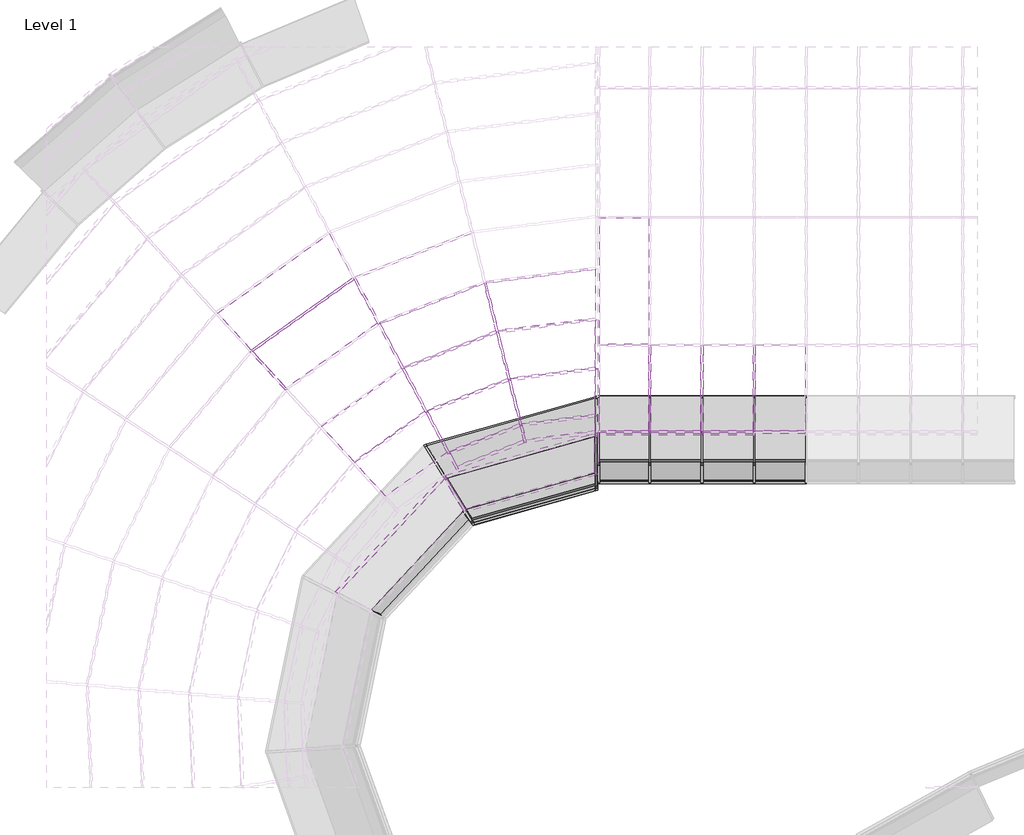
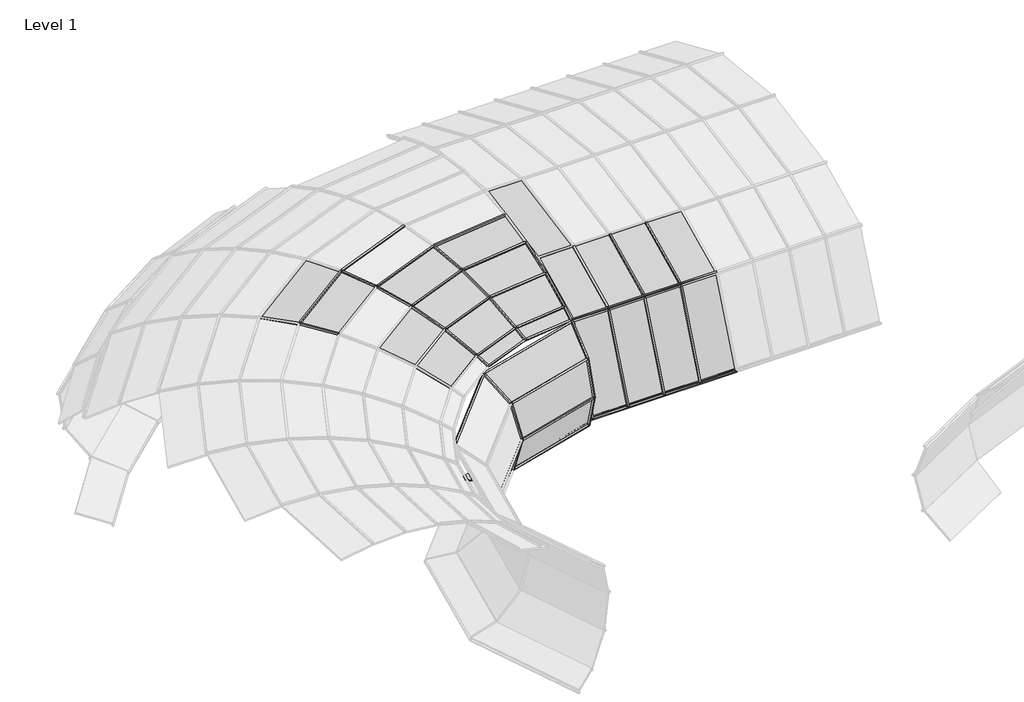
# One storey, part 15 of 23: 68 members, 31 plates.
"""IFC4 building model written with IfcOpenShell, lengths in millimetres."""

from ifc_helpers import new_model, si_unit, origin, place, context, project, spatial, transform, mapped, element, save
from components import member_c876edb5, member_40c6cd9d, member_782630c7, member_c2ddcf79, member_398e5ff5, member_398607d0, member_5099ef51, member_5ccaa950, member_a32a9cac, member_ff149431, member_8174f0e4, member_f9960f3d, member_231912ba, member_602ccce8, member_4609ab2d, member_513a4f72, member_c8b9029b, member_4f4d7b95, member_68981e21, member_3e1f1dd8, member_0cd36c09, member_d0a40a1c, member_ff9adfd2, member_8c9da58c, member_391bee44, member_01ebdf2a, member_d6b8231b, member_0f8f75f6, member_42213d33, member_14e241b9, member_5f010dbd, member_0934fb4d, member_48ec9f95, member_a14fa40f, member_7b8779ad, member_ae0b3619, member_4a9ed0f7, member_e2c9c6a0, member_25f397f4, member_9fdc8c74, system_panel_glazed_4989902e, system_panel_glazed_6854fac0, system_panel_glazed_c0d17033, system_panel_glazed_fa19e975, system_panel_glazed_51f493bd, system_panel_glazed_a1f64e1d, system_panel_glazed_6ab21abb, system_panel_glazed_3957fabc, system_panel_glazed_7bf4cd1b, system_panel_glazed_9f229a92, system_panel_glazed_17b64d9f, system_panel_glazed_a07c5774, system_panel_glazed_af8a38da, system_panel_glazed_4fd85c75, system_panel_glazed_840234e5, system_panel_glazed_1256fb3b, system_panel_glazed_5d54433e, system_panel_glazed_de823024, system_panel_glazed_a11d2942, system_panel_glazed_66eabb40, system_panel_glazed_688557e5, system_panel_glazed_15cacd98, system_panel_glazed_2b717ddf

model = new_model("IFC4")

# Units and contexts
model_context = context("Model", 3, world=origin())
ifc_project = project(units=[si_unit("LENGTHUNIT", "METRE", prefix="MILLI")], contexts=[model_context])

# Site, building, storey
site = spatial("IfcSite", under=ifc_project)
building = spatial("IfcBuilding", under=site)
storey = spatial("IfcBuildingStorey", under=building, Name="Level 1", Elevation=0.0)

# Members
placement = place(None, origin())
member_shape = member_c876edb5(model_context)
element("IfcMember", 1, ObjectType="Rectangular Mullion : 1\" Square", at=placement, inside=storey, context=model_context, shape_type="MappedRepresentation", body=[
    mapped(member_shape, transform((-12174.6051838, 2868.8876904, 2676.0506073), x_axis=(0.34938601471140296, -0.8972882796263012, -0.26982059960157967), y_axis=(0.09790269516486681, -0.2514323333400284, 0.962910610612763), z_axis=(-0.9318500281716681, -0.3628436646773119, 0.0))),
])
member_2_shape = member_40c6cd9d(model_context)
element("IfcMember", 2, ObjectType="Rectangular Mullion : 1\" Square", at=placement, inside=storey, context=model_context, shape_type="MappedRepresentation", body=[
    mapped(member_2_shape, transform((-10931.7449467, 2736.2969259, 2475.91846), x_axis=(0.11409837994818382, -0.9171267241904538, -0.3819163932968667), y_axis=(0.04715017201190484, -0.3789947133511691, 0.9241968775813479), z_axis=(-0.9923499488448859, -0.12345679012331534, 0.0))),
])
member_3_shape = member_782630c7(model_context)
element("IfcMember", 3, ObjectType="Rectangular Mullion : 1\" Square", at=placement, inside=storey, context=model_context, shape_type="MappedRepresentation", body=[
    mapped(member_3_shape, transform((-11901.0305804, 2362.2159821, 2475.91846), x_axis=(0.33533898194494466, -0.8612128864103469, -0.3819163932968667), y_axis=(0.13857594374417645, -0.3558888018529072, 0.9241968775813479), z_axis=(-0.9318500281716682, -0.3628436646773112, 0.0))),
])
member_4_shape = member_c2ddcf79(model_context)
element("IfcMember", 4, ObjectType="Rectangular Mullion : 1\" Square", at=placement, inside=storey, context=model_context, shape_type="MappedRepresentation", body=[
    mapped(member_4_shape, transform((-10797.4988883, 2205.1103725, 2208.6526723), x_axis=(0.10770495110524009, -0.8657361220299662, -0.4887746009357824), y_axis=(0.060342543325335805, -0.48503545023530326, 0.8724101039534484), z_axis=(-0.992349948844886, -0.12345679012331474, 0.0))),
])
member_5_shape = member_398e5ff5(model_context)
element("IfcMember", 5, ObjectType="Rectangular Mullion : 1\" Square", at=placement, inside=storey, context=model_context, shape_type="MappedRepresentation", body=[
    mapped(member_5_shape, transform((-11640.7229512, 1880.1152697, 2208.6526723), x_axis=(0.3165484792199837, -0.8129553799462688, -0.48877460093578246), y_axis=(0.17734876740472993, -0.4554646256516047, 0.8724101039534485), z_axis=(-0.9318500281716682, -0.3628436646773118, 0.0))),
])
member_6_shape = member_398607d0(model_context)
element("IfcMember", 6, ObjectType="Rectangular Mullion : 1\" Square", at=placement, inside=storey, context=model_context, shape_type="MappedRepresentation", body=[
    mapped(member_6_shape, transform((-12745.8541056, 3926.8647965, 2864.5209769), x_axis=(0.3626062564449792, -0.9312403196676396, -0.03616863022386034), y_axis=(0.013123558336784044, -0.033703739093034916, 0.9993457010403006), z_axis=(-0.9318500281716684, -0.36284366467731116, 0.0))),
])
element("IfcMember", 7, ObjectType="Rectangular Mullion : 1\" Square", at=placement, inside=storey, context=model_context, shape_type="MappedRepresentation", body=[
    mapped(member_6_shape, transform((-13951.5584731, 3071.9900702, 2864.5209769), x_axis=(0.5797297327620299, -0.8140056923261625, -0.03616863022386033), y_axis=(0.020981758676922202, -0.029460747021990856, 0.9993457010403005), z_axis=(-0.8145386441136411, -0.5801092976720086, 0.0))),
])
member_7_shape = member_5099ef51(model_context)
element("IfcMember", 8, ObjectType="Rectangular Mullion : 1\" Square", at=placement, inside=storey, context=model_context, shape_type="MappedRepresentation", body=[
    mapped(member_7_shape, transform((-11218.7560629, 3871.9462509, 2806.2019711), x_axis=(0.1219832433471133, -0.9805055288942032, -0.15404218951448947), y_axis=(0.019017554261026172, -0.15286375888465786, 0.9880642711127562), z_axis=(-0.9923499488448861, -0.12345679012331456, 0.0))),
])
member_8_shape = member_5ccaa950(model_context)
element("IfcMember", 9, ObjectType="Rectangular Mullion : 1\" Square", at=placement, inside=storey, context=model_context, shape_type="MappedRepresentation", body=[
    mapped(member_8_shape, transform((-12457.5548024, 3392.9223227, 2806.2019711), x_axis=(0.35851286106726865, -0.9207277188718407, -0.15404218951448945), y_axis=(0.055893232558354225, -0.14354421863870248, 0.9880642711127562), z_axis=(-0.9318500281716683, -0.36284366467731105, 0.0))),
])
member_9_shape = member_a32a9cac(model_context)
element("IfcMember", 10, ObjectType="Rectangular Mullion : 1\" Square", at=placement, inside=storey, context=model_context, shape_type="MappedRepresentation", body=[
    mapped(member_9_shape, transform((-11072.8330596, 3294.5562098, 2676.0506073), x_axis=(0.1188778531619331, -0.9555442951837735, -0.2698205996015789), y_axis=(0.03331118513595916, -0.2677564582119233, 0.9629106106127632), z_axis=(-0.9923499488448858, -0.12345679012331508, 0.0))),
])
member_10_shape = member_ff149431(model_context)
element("IfcMember", 11, ObjectType="Rectangular Mullion : 1\" Square", at=placement, inside=storey, context=model_context, shape_type="MappedRepresentation", body=[
    mapped(member_10_shape, transform((-10746.8652958, 2004.7627139, 2085.6089632), x_axis=(0.10586239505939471, -0.850925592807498, -0.514508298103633), y_axis=(0.06351954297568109, -0.51057228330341, 0.857485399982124), z_axis=(-0.9923499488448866, -0.12345679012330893, 0.0))),
])
member_11_shape = member_8174f0e4(model_context)
element("IfcMember", 12, ObjectType="Rectangular Mullion : 1\" Square", at=placement, inside=storey, context=model_context, shape_type="MappedRepresentation", body=[
    mapped(member_11_shape, transform((-11542.5427099, 1698.2813201, 2085.6089632), x_axis=(0.3111331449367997, -0.7990477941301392, -0.5145082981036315), y_axis=(0.18668607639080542, -0.47944457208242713, 0.8574853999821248), z_axis=(-0.9318500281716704, -0.36284366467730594, 0.0))),
])
member_12_shape = member_f9960f3d(model_context)
element("IfcMember", 13, ObjectType="Rectangular Mullion : 1\" Square", at=placement, inside=storey, context=model_context, shape_type="MappedRepresentation", body=[
    mapped(member_12_shape, transform((-11356.5599234, 1047.8979662, 1116.1918244), x_axis=(0.007390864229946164, -0.026347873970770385, -0.9996255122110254), y_axis=(0.26998484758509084, -0.962475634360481, 0.02736485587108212), z_axis=(-0.962836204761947, -0.2700859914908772, 0.0))),
])
member_13_shape = member_231912ba(model_context)
element("IfcMember", 14, ObjectType="Rectangular Mullion : 1\" Square", at=placement, inside=storey, context=model_context, shape_type="MappedRepresentation", body=[
    mapped(member_13_shape, transform((-11921.9234749, 1976.3418904, 0.0), x_axis=(-0.2624096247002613, 0.9354705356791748, -0.23671938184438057), y_axis=(0.06393458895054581, -0.2279219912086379, -0.9715780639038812), z_axis=(-0.9628362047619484, -0.27008599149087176, 0.0))),
])
member_14_shape = member_602ccce8(model_context)
element("IfcMember", 15, ObjectType="Rectangular Mullion : 1\" Square", at=placement, inside=storey, context=model_context, shape_type="MappedRepresentation", body=[
    mapped(member_14_shape, transform((-11437.3436732, 1180.5615973, 526.7119632), x_axis=(-0.1426560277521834, 0.5085579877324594, -0.8491278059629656), y_axis=(0.22933752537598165, -0.8175709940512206, -0.5281874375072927), z_axis=(-0.9628362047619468, -0.27008599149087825, 0.0))),
])
member_15_shape = member_4609ab2d(model_context)
element("IfcMember", 16, ObjectType="Rectangular Mullion : 1\" Square", at=placement, inside=storey, context=model_context, shape_type="MappedRepresentation", body=[
    mapped(member_15_shape, transform((-11670.4149391, 1563.312838, 113.4427618), x_axis=(-0.24330787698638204, 0.8673742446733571, -0.4341234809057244), y_axis=(0.11725067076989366, -0.4179898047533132, -0.900853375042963), z_axis=(-0.962836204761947, -0.27008599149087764, 0.0))),
])
member_16_shape = member_513a4f72(model_context)
element("IfcMember", 17, ObjectType="Rectangular Mullion : 1\" Square", at=placement, inside=storey, context=model_context, shape_type="MappedRepresentation", body=[
    mapped(member_16_shape, transform((-11453.4513691, 1207.0137667, 1696.6281859), x_axis=(0.1547369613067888, -0.551625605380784, -0.8196131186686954), y_axis=(0.22136602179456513, -0.7891531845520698, 0.5729173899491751), z_axis=(-0.9628362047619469, -0.27008599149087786, 0.0))),
])
member_17_shape = member_c8b9029b(model_context)
element("IfcMember", 18, ObjectType="Rectangular Mullion : 1\" Square", at=placement, inside=storey, context=model_context, shape_type="MappedRepresentation", body=[
    mapped(member_17_shape, transform((-11718.4562886, 1595.1846124, 2085.6089632), x_axis=(-0.5543774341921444, 0.5168178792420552, 0.6523533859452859), y_axis=(0.47716435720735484, -0.444836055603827, 0.757914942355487), z_axis=(0.6818943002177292, 0.7314507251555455, 0.0))),
])
member_18_shape = member_4f4d7b95(model_context)
element("IfcMember", 19, ObjectType="Rectangular Mullion : 1\" Square", at=placement, inside=storey, context=model_context, shape_type="MappedRepresentation", body=[
    mapped(member_18_shape, transform((-9937.406021, 2101.6487012, 2085.6089632), x_axis=(-0.20470220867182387, 0.7297479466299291, 0.6523533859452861), y_axis=(0.17619151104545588, -0.628109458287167, 0.7579149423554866), z_axis=(0.9628362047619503, 0.2700859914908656, 0.0))),
])
member_19_shape = member_68981e21(model_context)
element("IfcMember", 20, ObjectType="Rectangular Mullion : 1\" Square", at=placement, inside=storey, context=model_context, shape_type="MappedRepresentation", body=[
    mapped(member_19_shape, transform((-9303.3499814, 2539.8807303, 0.0), x_axis=(0.0, 0.8307182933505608, -0.5566930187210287), y_axis=(0.0, -0.5566930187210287, -0.8307182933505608), z_axis=(-1.0, 0.0, 0.0))),
])
element("IfcMember", 21, ObjectType="Rectangular Mullion : 1\" Square", at=placement, inside=storey, context=model_context, shape_type="MappedRepresentation", body=[
    mapped(member_19_shape, transform((-8693.7499814, 2539.8807303, 0.0), x_axis=(0.0, 0.8307182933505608, -0.5566930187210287), y_axis=(0.0, -0.5566930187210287, -0.8307182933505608), z_axis=(-1.0, 0.0, 0.0))),
])
element("IfcMember", 22, ObjectType="Rectangular Mullion : 1\" Square", at=placement, inside=storey, context=model_context, shape_type="MappedRepresentation", body=[
    mapped(member_19_shape, transform((-8084.1499814, 2539.8807303, 0.0), x_axis=(0.0, 0.8307182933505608, -0.5566930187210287), y_axis=(0.0, -0.5566930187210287, -0.8307182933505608), z_axis=(-1.0, 0.0, 0.0))),
])
element("IfcMember", 23, ObjectType="Rectangular Mullion : 1\" Square", at=placement, inside=storey, context=model_context, shape_type="MappedRepresentation", body=[
    mapped(member_19_shape, transform((-9303.3499814, 2108.5088854, 2085.6089632), x_axis=(0.0, -0.9009025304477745, -0.43402146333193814), y_axis=(0.0, -0.43402146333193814, 0.9009025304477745), z_axis=(-1.0, 0.0, 0.0))),
])
element("IfcMember", 24, ObjectType="Rectangular Mullion : 1\" Square", at=placement, inside=storey, context=model_context, shape_type="MappedRepresentation", body=[
    mapped(member_19_shape, transform((-8693.7499814, 2108.5088854, 2085.6089632), x_axis=(0.0, -0.9009025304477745, -0.43402146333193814), y_axis=(0.0, -0.43402146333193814, 0.9009025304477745), z_axis=(-1.0, 0.0, 0.0))),
])
element("IfcMember", 25, ObjectType="Rectangular Mullion : 1\" Square", at=placement, inside=storey, context=model_context, shape_type="MappedRepresentation", body=[
    mapped(member_19_shape, transform((-8084.1499814, 2108.5088854, 2085.6089632), x_axis=(0.0, -0.9009025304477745, -0.43402146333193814), y_axis=(0.0, -0.43402146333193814, 0.9009025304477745), z_axis=(-1.0, 0.0, 0.0))),
])
member_20_shape = member_3e1f1dd8(model_context)
element("IfcMember", 26, ObjectType="Rectangular Mullion : 1\" Square", at=placement, inside=storey, context=model_context, shape_type="MappedRepresentation", body=[
    mapped(member_20_shape, transform((-9303.3499814, 1534.1192339, 673.9955146), x_axis=(0.0, 0.38018576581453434, -0.9249101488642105), y_axis=(0.0, -0.9249101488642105, -0.38018576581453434), z_axis=(-1.0, 0.0, 0.0))),
])
element("IfcMember", 27, ObjectType="Rectangular Mullion : 1\" Square", at=placement, inside=storey, context=model_context, shape_type="MappedRepresentation", body=[
    mapped(member_20_shape, transform((-8693.7499814, 1534.1192339, 673.9955146), x_axis=(0.0, 0.38018576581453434, -0.9249101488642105), y_axis=(0.0, -0.9249101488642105, -0.38018576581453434), z_axis=(-1.0, 0.0, 0.0))),
])
element("IfcMember", 28, ObjectType="Rectangular Mullion : 1\" Square", at=placement, inside=storey, context=model_context, shape_type="MappedRepresentation", body=[
    mapped(member_20_shape, transform((-8084.1499814, 1534.1192339, 673.9955146), x_axis=(0.0, 0.38018576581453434, -0.9249101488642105), y_axis=(0.0, -0.9249101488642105, -0.38018576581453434), z_axis=(-1.0, 0.0, 0.0))),
])
element("IfcMember", 29, ObjectType="Rectangular Mullion : 1\" Square", at=placement, inside=storey, context=model_context, shape_type="MappedRepresentation", body=[
    mapped(member_20_shape, transform((-9912.9499814, 1534.1192339, 673.9955146), x_axis=(0.0, 0.38018576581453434, -0.9249101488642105), y_axis=(0.0, -0.9249101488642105, -0.38018576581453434), z_axis=(-1.0, 0.0, 0.0))),
])
element("IfcMember", 30, ObjectType="Rectangular Mullion : 1\" Square", at=placement, inside=storey, context=model_context, shape_type="MappedRepresentation", body=[
    mapped(member_19_shape, transform((-9912.9499814, 2539.8807303, 0.0), x_axis=(0.0, 0.8307182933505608, -0.5566930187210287), y_axis=(0.0, -0.5566930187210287, -0.8307182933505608), z_axis=(-1.0, 0.0, 0.0))),
])
element("IfcMember", 31, ObjectType="Rectangular Mullion : 1\" Square", at=placement, inside=storey, context=model_context, shape_type="MappedRepresentation", body=[
    mapped(member_19_shape, transform((-9912.9499814, 2108.5088854, 2085.6089632), x_axis=(0.0, -0.9009025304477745, -0.4340214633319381), y_axis=(0.0, -0.4340214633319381, 0.9009025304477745), z_axis=(-1.0, 0.0, 0.0))),
])
element("IfcMember", 32, ObjectType="Rectangular Mullion : 1\" Square", at=placement, inside=storey, context=model_context, shape_type="MappedRepresentation", body=[
    mapped(member_19_shape, transform((-8693.7499814, 2108.5088854, 2085.6089632), x_axis=(0.0, 0.3768960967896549, 0.9262555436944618), y_axis=(0.0, -0.9262555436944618, 0.3768960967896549), z_axis=(1.0, 0.0, 0.0))),
])
element("IfcMember", 33, ObjectType="Rectangular Mullion : 1\" Square", at=placement, inside=storey, context=model_context, shape_type="MappedRepresentation", body=[
    mapped(member_19_shape, transform((-8084.1499814, 2108.5088854, 2085.6089632), x_axis=(0.0, 0.3768960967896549, 0.9262555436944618), y_axis=(0.0, -0.9262555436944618, 0.3768960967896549), z_axis=(1.0, 0.0, 0.0))),
])
element("IfcMember", 34, ObjectType="Rectangular Mullion : 1\" Square", at=placement, inside=storey, context=model_context, shape_type="MappedRepresentation", body=[
    mapped(member_19_shape, transform((-9303.3499814, 2108.5088854, 2085.6089632), x_axis=(0.0, 0.3768960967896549, 0.9262555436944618), y_axis=(0.0, -0.9262555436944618, 0.3768960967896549), z_axis=(1.0, 0.0, 0.0))),
])
member_21_shape = member_0cd36c09(model_context)
element("IfcMember", 35, ObjectType="Rectangular Mullion : 1\" Square", at=placement, inside=storey, context=model_context, shape_type="MappedRepresentation", body=[
    mapped(member_21_shape, transform((-11231.3589072, 3870.3783497, 2806.2019711), x_axis=(-0.9695168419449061, -0.2450246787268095, 0.0), y_axis=(0.05231347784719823, -0.20699465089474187, 0.9769424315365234), z_axis=(-0.23937500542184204, 0.9471621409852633, 0.21350289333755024))),
])
element("IfcMember", 36, ObjectType="Rectangular Mullion : 1\" Square", at=placement, inside=storey, context=model_context, shape_type="MappedRepresentation", body=[
    mapped(member_21_shape, transform((-11085.4359039, 3292.9883085, 2676.0506073), x_axis=(-0.9695168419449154, -0.24502467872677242, 0.0), y_axis=(0.08044178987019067, -0.31829312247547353, 0.9445732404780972), z_axis=(-0.23144375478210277, 0.9157796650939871, 0.32830076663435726))),
])
element("IfcMember", 37, ObjectType="Rectangular Mullion : 1\" Square", at=placement, inside=storey, context=model_context, shape_type="MappedRepresentation", body=[
    mapped(member_21_shape, transform((-12757.688601, 3922.2566819, 2864.5209769), x_axis=(-0.8799258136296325, -0.475111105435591, 0.0), y_axis=(0.04545276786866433, -0.08418044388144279, 0.9954133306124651), z_axis=(-0.4729319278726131, 0.8758898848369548, 0.09566766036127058))),
])
element("IfcMember", 38, ObjectType="Rectangular Mullion : 1\" Square", at=placement, inside=storey, context=model_context, shape_type="MappedRepresentation", body=[
    mapped(member_21_shape, transform((-12469.3892978, 3388.3142081, 2806.2019711), x_axis=(-0.87992581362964, -0.4751111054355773, 0.0), y_axis=(0.10143759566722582, -0.1878667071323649, 0.9769424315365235), z_axis=(-0.46415619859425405, 0.8596368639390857, 0.21350289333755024))),
])
element("IfcMember", 39, ObjectType="Rectangular Mullion : 1\" Square", at=placement, inside=storey, context=model_context, shape_type="MappedRepresentation", body=[
    mapped(member_21_shape, transform((-12186.4396791, 2864.2795759, 2676.0506073), x_axis=(-0.8799258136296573, -0.4751111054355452, 0.0), y_axis=(0.15597934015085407, -0.2888803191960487, 0.9445732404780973), z_axis=(-0.4487772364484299, 0.8311543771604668, 0.3283007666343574))),
])
element("IfcMember", 40, ObjectType="Rectangular Mullion : 1\" Square", at=placement, inside=storey, context=model_context, shape_type="MappedRepresentation", body=[
    mapped(member_21_shape, transform((-13961.9031139, 3064.6226821, 2864.5209769), x_axis=(-0.736688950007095, -0.6762317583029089, 0.0), y_axis=(0.06469351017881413, -0.07047730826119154, 0.9954133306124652), z_axis=(-0.6731301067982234, 0.7333100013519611, 0.09566766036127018))),
])
member_22_shape = member_d0a40a1c(model_context)
element("IfcMember", 41, ObjectType="Rectangular Mullion : 1\" Square", at=placement, inside=storey, context=model_context, shape_type="MappedRepresentation", body=[
    mapped(member_22_shape, transform((-10944.347791, 2734.7290247, 2475.91846), x_axis=(-0.9695168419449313, -0.2450246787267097, 0.0), y_axis=(0.10742571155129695, -0.4250634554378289, 0.8987662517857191), z_axis=(-0.22021991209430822, 0.8713690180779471, 0.43842812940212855))),
])
element("IfcMember", 42, ObjectType="Rectangular Mullion : 1\" Square", at=placement, inside=storey, context=model_context, shape_type="MappedRepresentation", body=[
    mapped(member_22_shape, transform((-11912.8650758, 2357.6078676, 2475.91846), x_axis=(-0.8799258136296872, -0.4751111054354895, 0.0), y_axis=(0.20830207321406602, -0.3857842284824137, 0.8987662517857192), z_axis=(-0.4270138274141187, 0.7908476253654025, 0.4384281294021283))),
])
member_23_shape = member_ff9adfd2(model_context)
element("IfcMember", 43, ObjectType="Rectangular Mullion : 1\" Square", at=placement, inside=storey, context=model_context, shape_type="MappedRepresentation", body=[
    mapped(member_23_shape, transform((-10810.1017326, 2203.5424713, 2208.6526723), x_axis=(-0.9695168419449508, -0.24502467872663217, 0.0), y_axis=(0.12535595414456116, -0.4960100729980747, 0.8592205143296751), z_axis=(-0.21053023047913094, 0.8330287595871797, 0.5116054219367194))),
])
element("IfcMember", 44, ObjectType="Rectangular Mullion : 1\" Square", at=placement, inside=storey, context=model_context, shape_type="MappedRepresentation", body=[
    mapped(member_23_shape, transform((-11652.5574466, 1875.5071551, 2208.6526723), x_axis=(-0.8799258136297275, -0.47511110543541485, 0.0), y_axis=(0.24306941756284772, -0.450174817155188, 0.8592205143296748), z_axis=(-0.40822520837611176, 0.7560503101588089, 0.5116054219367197))),
])
member_24_shape = member_8c9da58c(model_context)
element("IfcMember", 45, ObjectType="Rectangular Mullion : 1\" Square", at=placement, inside=storey, context=model_context, shape_type="MappedRepresentation", body=[
    mapped(member_24_shape, transform((-11465.6793889, 1203.5836746, 1696.6281859), x_axis=(-0.8541071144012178, -0.520097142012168, 0.0), y_axis=(0.49521537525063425, -0.8132461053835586, 0.3056018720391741), z_axis=(-0.15894266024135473, 0.26101673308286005, 0.952159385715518))),
])
element("IfcMember", 46, ObjectType="Rectangular Mullion : 1\" Square", at=placement, inside=storey, context=model_context, shape_type="MappedRepresentation", body=[
    mapped(member_24_shape, transform((-11368.7879432, 1044.4678741, 1116.1918244), x_axis=(-0.8541071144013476, -0.5200971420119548, 0.0), y_axis=(0.5029310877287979, -0.8259169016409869, -0.25479715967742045), z_axis=(0.13251927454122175, -0.2176240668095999, 0.9669945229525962))),
])
member_25_shape = member_391bee44(model_context)
element("IfcMember", 47, ObjectType="Rectangular Mullion : 1\" Square", at=placement, inside=storey, context=model_context, shape_type="MappedRepresentation", body=[
    mapped(member_25_shape, transform((-11449.571693, 1177.1315052, 526.7119632), x_axis=(-0.8541071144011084, -0.5200971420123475, 0.0), y_axis=(0.3525920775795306, -0.5790291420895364, -0.735121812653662), z_axis=(0.3823347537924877, -0.627872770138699, 0.677935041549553))),
])
member_26_shape = member_01ebdf2a(model_context)
element("IfcMember", 48, ObjectType="Rectangular Mullion : 1\" Square", at=placement, inside=storey, context=model_context, shape_type="MappedRepresentation", body=[
    mapped(member_26_shape, transform((-11682.6429589, 1559.8827459, 113.4427618), x_axis=(-0.8541071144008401, -0.520097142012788, 0.0), y_axis=(0.11878459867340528, -0.19506888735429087, -0.9735698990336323), z_axis=(0.5063509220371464, -0.831532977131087, 0.22838925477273))),
])
member_27_shape = member_d6b8231b(model_context)
element("IfcMember", 49, ObjectType="Rectangular Mullion : 1\" Square", at=placement, inside=storey, context=model_context, shape_type="MappedRepresentation", body=[
    mapped(member_27_shape, transform((-11709.796231, 1604.4740366, 2085.6089632), x_axis=(-0.8541071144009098, -0.5200971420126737, 0.0), y_axis=(0.331869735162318, -0.5449987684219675, 0.769960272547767), z_axis=(-0.400454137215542, 0.6576285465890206, 0.6380918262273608))),
])
member_28_shape = member_0f8f75f6(model_context)
element("IfcMember", 50, ObjectType="Rectangular Mullion : 1\" Square", at=placement, inside=storey, context=model_context, shape_type="MappedRepresentation", body=[
    mapped(member_28_shape, transform((-8693.7499814, 2518.7804857, 14.1400027), x_axis=(1.0, 0.0, 0.0), y_axis=(0.0, -0.5566930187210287, -0.8307182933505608), z_axis=(0.0, 0.8307182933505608, -0.5566930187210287))),
])
element("IfcMember", 51, ObjectType="Rectangular Mullion : 1\" Square", at=placement, inside=storey, context=model_context, shape_type="MappedRepresentation", body=[
    mapped(member_28_shape, transform((-9303.3499814, 2518.7804857, 14.1400027), x_axis=(1.0, 0.0, 0.0), y_axis=(0.0, -0.5566930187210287, -0.8307182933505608), z_axis=(0.0, 0.8307182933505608, -0.5566930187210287))),
])
element("IfcMember", 52, ObjectType="Rectangular Mullion : 1\" Square", at=placement, inside=storey, context=model_context, shape_type="MappedRepresentation", body=[
    mapped(member_28_shape, transform((-8084.1499814, 2518.7804857, 14.1400027), x_axis=(1.0, 0.0, 0.0), y_axis=(0.0, -0.5566930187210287, -0.8307182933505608), z_axis=(0.0, 0.8307182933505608, -0.5566930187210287))),
])
member_29_shape = member_42213d33(model_context)
element("IfcMember", 53, ObjectType="Rectangular Mullion : 1\" Square", at=placement, inside=storey, context=model_context, shape_type="MappedRepresentation", body=[
    mapped(member_29_shape, transform((-9303.3499814, 1538.9058143, 685.75896), x_axis=(1.0, 0.0, 0.0), y_axis=(0.0, -0.9262555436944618, 0.3768960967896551), z_axis=(0.0, -0.3768960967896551, -0.9262555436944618))),
])
element("IfcMember", 54, ObjectType="Rectangular Mullion : 1\" Square", at=placement, inside=storey, context=model_context, shape_type="MappedRepresentation", body=[
    mapped(member_29_shape, transform((-8693.7499814, 1538.9058143, 685.75896), x_axis=(1.0, 0.0, 0.0), y_axis=(0.0, -0.9262555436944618, 0.3768960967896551), z_axis=(0.0, -0.3768960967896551, -0.9262555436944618))),
])
element("IfcMember", 55, ObjectType="Rectangular Mullion : 1\" Square", at=placement, inside=storey, context=model_context, shape_type="MappedRepresentation", body=[
    mapped(member_29_shape, transform((-8084.1499814, 1538.9058143, 685.75896), x_axis=(1.0, 0.0, 0.0), y_axis=(0.0, -0.9262555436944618, 0.3768960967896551), z_axis=(0.0, -0.3768960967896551, -0.9262555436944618))),
])
member_30_shape = member_14e241b9(model_context)
element("IfcMember", 56, ObjectType="Rectangular Mullion : 1\" Square", at=placement, inside=storey, context=model_context, shape_type="MappedRepresentation", body=[
    mapped(member_30_shape, transform((-9303.3499814, 2131.3918096, 2096.6331083), x_axis=(1.0, 0.0, 0.0), y_axis=(0.0, -0.43402146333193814, 0.9009025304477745), z_axis=(0.0, -0.9009025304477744, -0.4340214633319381))),
])
element("IfcMember", 57, ObjectType="Rectangular Mullion : 1\" Square", at=placement, inside=storey, context=model_context, shape_type="MappedRepresentation", body=[
    mapped(member_30_shape, transform((-8084.1499814, 2131.3918096, 2096.6331083), x_axis=(1.0, 0.0, 0.0), y_axis=(0.0, -0.43402146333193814, 0.9009025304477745), z_axis=(0.0, -0.9009025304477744, -0.4340214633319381))),
])
element("IfcMember", 58, ObjectType="Rectangular Mullion : 1\" Square", at=placement, inside=storey, context=model_context, shape_type="MappedRepresentation", body=[
    mapped(member_30_shape, transform((-8693.7499814, 2131.3918096, 2096.6331083), x_axis=(1.0, 0.0, 0.0), y_axis=(0.0, -0.43402146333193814, 0.9009025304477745), z_axis=(0.0, -0.9009025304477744, -0.4340214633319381))),
])
member_31_shape = member_5f010dbd(model_context)
element("IfcMember", 59, ObjectType="Rectangular Mullion : 1\" Square", at=placement, inside=storey, context=model_context, shape_type="MappedRepresentation", body=[
    mapped(member_31_shape, transform((-9912.9499814, 2863.0437014, 2475.91846), x_axis=(0.9991669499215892, 0.013397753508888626, -0.03854745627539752), y_axis=(0.04080938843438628, -0.3280272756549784, 0.9437863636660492), z_axis=(0.0, -0.9445732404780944, -0.3283007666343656))),
])
member_32_shape = member_0934fb4d(model_context)
element("IfcMember", 60, ObjectType="Rectangular Mullion : 1\" Square", at=placement, inside=storey, context=model_context, shape_type="MappedRepresentation", body=[
    mapped(member_32_shape, transform((-9912.9499814, 2315.1557944, 2208.6526723), x_axis=(0.9985157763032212, 0.023878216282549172, -0.04894972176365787), y_axis=(0.0544632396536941, -0.4377774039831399, 0.8974322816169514), z_axis=(0.0, -0.8987662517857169, -0.43842812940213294))),
])
member_33_shape = member_48ec9f95(model_context)
element("IfcMember", 61, ObjectType="Rectangular Mullion : 1\" Square", at=placement, inside=storey, context=model_context, shape_type="MappedRepresentation", body=[
    mapped(member_33_shape, transform((-9912.9499814, 2108.5088854, 2085.6089632), x_axis=(0.9979805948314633, 0.032496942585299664, -0.054577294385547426), y_axis=(0.06351954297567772, -0.5105722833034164, 0.8574853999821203), z_axis=(0.0, -0.8592205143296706, -0.511605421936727))),
])
member_34_shape = member_a14fa40f(model_context)
element("IfcMember", 62, ObjectType="Rectangular Mullion : 1\" Square", at=placement, inside=storey, context=model_context, shape_type="MappedRepresentation", body=[
    mapped(member_34_shape, transform((-9912.9499814, 2539.8807303, 0.0), x_axis=(0.9979540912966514, 0.014601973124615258, 0.0622447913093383), y_axis=(0.06393458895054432, -0.22792199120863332, -0.9715780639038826), z_axis=(0.0, 0.9735698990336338, -0.22838925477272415))),
])
member_35_shape = member_7b8779ad(model_context)
element("IfcMember", 63, ObjectType="Rectangular Mullion : 1\" Square", at=placement, inside=storey, context=model_context, shape_type="MappedRepresentation", body=[
    mapped(member_35_shape, transform((-9912.9499814, 1639.1411032, 1696.6281859), x_axis=(0.9843559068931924, 0.11242636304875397, -0.13566046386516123), y_axis=(0.17619151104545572, -0.6281094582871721, 0.7579149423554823), z_axis=(0.0, -0.7699602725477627, -0.638091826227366))),
])
member_36_shape = member_ae0b3619(model_context)
element("IfcMember", 64, ObjectType="Rectangular Mullion : 1\" Square", at=placement, inside=storey, context=model_context, shape_type="MappedRepresentation", body=[
    mapped(member_36_shape, transform((-9912.9499814, 1452.846202, 1116.1918244), x_axis=(0.9661327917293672, 0.2457003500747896, -0.07885915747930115), y_axis=(0.2580454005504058, -0.9199124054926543, 0.29525198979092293), z_axis=(0.0, -0.3056018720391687, -0.9521593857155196))),
])
member_37_shape = member_4a9ed0f7(model_context)
element("IfcMember", 65, ObjectType="Rectangular Mullion : 1\" Square", at=placement, inside=storey, context=model_context, shape_type="MappedRepresentation", body=[
    mapped(member_37_shape, transform((-9912.9499814, 1608.1705506, 526.7119632), x_axis=(0.9651242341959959, 0.25315172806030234, 0.06670393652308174), y_axis=(0.2617923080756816, -0.933269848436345, -0.24591091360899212), z_axis=(0.0, 0.2547971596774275, -0.9669945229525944))),
])
member_38_shape = member_e2c9c6a0(model_context)
element("IfcMember", 66, ObjectType="Rectangular Mullion : 1\" Square", at=placement, inside=storey, context=model_context, shape_type="MappedRepresentation", body=[
    mapped(member_38_shape, transform((-9912.9499814, 2056.3008076, 113.4427618), x_axis=(0.9823941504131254, 0.12665186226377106, 0.13733549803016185), y_axis=(0.18682005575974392, -0.6659994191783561, -0.7221793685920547), z_axis=(0.0, 0.7351218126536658, -0.6779350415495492))),
])
member_39_shape = member_25f397f4(model_context)
element("IfcMember", 67, ObjectType="Rectangular Mullion : 1\" Square", at=placement, inside=storey, context=model_context, shape_type="MappedRepresentation", body=[
    mapped(member_39_shape, transform((-9912.9499814, 2098.9357245, 2062.0820723), x_axis=(-1.0, 0.0, 0.0), y_axis=(0.0, -0.9262555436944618, 0.3768960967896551), z_axis=(0.0, 0.3768960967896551, 0.9262555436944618))),
])
member_40_shape = member_9fdc8c74(model_context)
element("IfcMember", 68, ObjectType="Rectangular Mullion : 1\" Square", at=placement, inside=storey, context=model_context, shape_type="MappedRepresentation", body=[
    mapped(member_40_shape, transform((-9912.9499814, 1544.6693562, 666.9255132), x_axis=(-1.0, 0.0, 0.0), y_axis=(0.0, -0.5566930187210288, -0.8307182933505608), z_axis=(0.0, -0.8307182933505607, 0.5566930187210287))),
])

# Plates
system_panel_glazed_shape = system_panel_glazed_4989902e(model_context)
element("IfcPlate", 69, ObjectType="System Panel : Glazed", at=placement, inside=storey, context=model_context, shape_type="MappedRepresentation", body=[
    mapped(system_panel_glazed_shape, transform((-9887.5499814, 1818.9207694, 1373.9205162), x_axis=(0.0, -0.3768960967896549, -0.9262555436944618), y_axis=(0.0, 0.9262555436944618, -0.3768960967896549), z_axis=(1.0, 0.0, 0.0))),
])
system_panel_glazed_2_shape = system_panel_glazed_6854fac0(model_context)
element("IfcPlate", 70, ObjectType="System Panel : Glazed", at=placement, inside=storey, context=model_context, shape_type="MappedRepresentation", body=[
    mapped(system_panel_glazed_2_shape, transform((-10812.4243301, 1836.2024852, 2069.0391872), x_axis=(-0.9628362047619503, -0.2700859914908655, 0.0), y_axis=(-0.17619151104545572, 0.628109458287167, -0.7579149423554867), z_axis=(0.20470220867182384, -0.7297479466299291, -0.652353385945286))),
])
system_panel_glazed_3_shape = system_panel_glazed_c0d17033(model_context)
element("IfcPlate", 71, ObjectType="System Panel : Glazed", at=placement, inside=storey, context=model_context, shape_type="MappedRepresentation", body=[
    mapped(system_panel_glazed_3_shape, transform((-9887.5499814, 3882.992753, 2721.9985635), x_axis=(0.0, -0.9824415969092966, -0.18657038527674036), y_axis=(0.0, 0.18657038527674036, -0.9824415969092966), z_axis=(1.0, 0.0, 0.0))),
])
system_panel_glazed_4_shape = system_panel_glazed_fa19e975(model_context)
element("IfcPlate", 72, ObjectType="System Panel : Glazed", at=placement, inside=storey, context=model_context, shape_type="MappedRepresentation", body=[
    mapped(system_panel_glazed_4_shape, transform((-9887.5499814, 2627.1613018, 2335.4764828), x_axis=(0.0, -0.9009025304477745, -0.4340214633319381), y_axis=(0.0, 0.4340214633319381, -0.9009025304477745), z_axis=(1.0, 0.0, 0.0))),
])
system_panel_glazed_5_shape = system_panel_glazed_51f493bd(model_context)
element("IfcPlate", 73, ObjectType="System Panel : Glazed", at=placement, inside=storey, context=model_context, shape_type="MappedRepresentation", body=[
    mapped(system_panel_glazed_5_shape, transform((-9290.6499814, 1818.9207694, 1373.9205162), x_axis=(0.0, -0.3768960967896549, -0.9262555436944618), y_axis=(0.0, 0.9262555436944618, -0.3768960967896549), z_axis=(1.0, 0.0, 0.0))),
])
element("IfcPlate", 74, ObjectType="System Panel : Glazed", at=placement, inside=storey, context=model_context, shape_type="MappedRepresentation", body=[
    mapped(system_panel_glazed_5_shape, transform((-8681.0499814, 1818.9207694, 1373.9205162), x_axis=(0.0, -0.3768960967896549, -0.9262555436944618), y_axis=(0.0, 0.9262555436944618, -0.3768960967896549), z_axis=(1.0, 0.0, 0.0))),
])
element("IfcPlate", 75, ObjectType="System Panel : Glazed", at=placement, inside=storey, context=model_context, shape_type="MappedRepresentation", body=[
    mapped(system_panel_glazed_5_shape, transform((-8071.4499814, 1818.9207694, 1373.9205162), x_axis=(0.0, -0.3768960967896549, -0.9262555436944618), y_axis=(0.0, 0.9262555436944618, -0.3768960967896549), z_axis=(1.0, 0.0, 0.0))),
])
system_panel_glazed_6_shape = system_panel_glazed_a1f64e1d(model_context)
element("IfcPlate", 76, ObjectType="System Panel : Glazed", at=placement, inside=storey, context=model_context, shape_type="MappedRepresentation", body=[
    mapped(system_panel_glazed_6_shape, transform((-9290.6499814, 2627.1613018, 2335.4764828), x_axis=(0.0, -0.9009025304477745, -0.43402146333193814), y_axis=(0.0, 0.43402146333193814, -0.9009025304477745), z_axis=(1.0, 0.0, 0.0))),
])
element("IfcPlate", 77, ObjectType="System Panel : Glazed", at=placement, inside=storey, context=model_context, shape_type="MappedRepresentation", body=[
    mapped(system_panel_glazed_6_shape, transform((-8681.0499814, 2627.1613018, 2335.4764828), x_axis=(0.0, -0.9009025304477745, -0.43402146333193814), y_axis=(0.0, 0.43402146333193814, -0.9009025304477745), z_axis=(1.0, 0.0, 0.0))),
])
element("IfcPlate", 78, ObjectType="System Panel : Glazed", at=placement, inside=storey, context=model_context, shape_type="MappedRepresentation", body=[
    mapped(system_panel_glazed_6_shape, transform((-8071.4499814, 2627.1613018, 2335.4764828), x_axis=(0.0, -0.9009025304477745, -0.43402146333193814), y_axis=(0.0, 0.43402146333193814, -0.9009025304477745), z_axis=(1.0, 0.0, 0.0))),
])
system_panel_glazed_7_shape = system_panel_glazed_6ab21abb(model_context)
element("IfcPlate", 79, ObjectType="System Panel : Glazed", at=placement, inside=storey, context=model_context, shape_type="MappedRepresentation", body=[
    mapped(system_panel_glazed_7_shape, transform((-9887.5499814, 2031.7249209, 340.532758), x_axis=(0.0, 0.8307182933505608, -0.5566930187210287), y_axis=(0.0, 0.5566930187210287, 0.8307182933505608), z_axis=(1.0, 0.0, 0.0))),
])
system_panel_glazed_8_shape = system_panel_glazed_3957fabc(model_context)
element("IfcPlate", 80, ObjectType="System Panel : Glazed", at=placement, inside=storey, context=model_context, shape_type="MappedRepresentation", body=[
    mapped(system_panel_glazed_8_shape, transform((-9290.6499814, 2031.7249209, 340.532758), x_axis=(0.0, 0.8307182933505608, -0.5566930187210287), y_axis=(0.0, 0.5566930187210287, 0.8307182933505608), z_axis=(1.0, 0.0, 0.0))),
])
element("IfcPlate", 81, ObjectType="System Panel : Glazed", at=placement, inside=storey, context=model_context, shape_type="MappedRepresentation", body=[
    mapped(system_panel_glazed_8_shape, transform((-8681.0499814, 2031.7249209, 340.532758), x_axis=(0.0, 0.8307182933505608, -0.5566930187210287), y_axis=(0.0, 0.5566930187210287, 0.8307182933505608), z_axis=(1.0, 0.0, 0.0))),
])
element("IfcPlate", 82, ObjectType="System Panel : Glazed", at=placement, inside=storey, context=model_context, shape_type="MappedRepresentation", body=[
    mapped(system_panel_glazed_8_shape, transform((-8071.4499814, 2031.7249209, 340.532758), x_axis=(0.0, 0.8307182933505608, -0.5566930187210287), y_axis=(0.0, 0.5566930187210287, 0.8307182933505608), z_axis=(1.0, 0.0, 0.0))),
])
system_panel_glazed_9_shape = system_panel_glazed_7bf4cd1b(model_context)
element("IfcPlate", 83, ObjectType="System Panel : Glazed", at=placement, inside=storey, context=model_context, shape_type="MappedRepresentation", body=[
    mapped(system_panel_glazed_9_shape, transform((-13703.2626958, 3975.7057204, 2850.4790751), x_axis=(-0.8145386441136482, -0.5801092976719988, 0.0), y_axis=(0.013754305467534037, -0.01931259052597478, -0.9997188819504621), z_axis=(0.5799462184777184, -0.8143096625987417, 0.023709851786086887))),
])
system_panel_glazed_10_shape = system_panel_glazed_9f229a92(model_context)
element("IfcPlate", 84, ObjectType="System Panel : Glazed", at=placement, inside=storey, context=model_context, shape_type="MappedRepresentation", body=[
    mapped(system_panel_glazed_10_shape, transform((-13352.4627805, 3483.1432179, 2863.296718), x_axis=(-0.8145386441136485, -0.5801092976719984, 0.0), y_axis=(-0.055921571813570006, 0.0785201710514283, -0.9953428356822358), z_axis=(0.5774076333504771, -0.8107452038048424, -0.09639833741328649))),
])
system_panel_glazed_11_shape = system_panel_glazed_17b64d9f(model_context)
element("IfcPlate", 85, ObjectType="System Panel : Glazed", at=placement, inside=storey, context=model_context, shape_type="MappedRepresentation", body=[
    mapped(system_panel_glazed_11_shape, transform((-10576.9709963, 3939.2913744, 2803.4705448), x_axis=(-0.9923499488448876, -0.12345679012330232, 0.0), y_axis=(-0.02655221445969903, 0.2134276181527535, -0.9765979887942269), z_axis=(0.12056765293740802, -0.9691269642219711, -0.2150729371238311))),
])
system_panel_glazed_12_shape = system_panel_glazed_a07c5774(model_context)
element("IfcPlate", 86, ObjectType="System Panel : Glazed", at=placement, inside=storey, context=model_context, shape_type="MappedRepresentation", body=[
    mapped(system_panel_glazed_12_shape, transform((-11845.8738271, 3617.7887345, 2803.4705448), x_axis=(-0.9318500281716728, -0.36284366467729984, 0.0), y_axis=(-0.0780378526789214, 0.2004157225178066, -0.9765979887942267), z_axis=(0.3543523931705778, -0.9100428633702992, -0.21507293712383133))),
])
system_panel_glazed_13_shape = system_panel_glazed_af8a38da(model_context)
element("IfcPlate", 87, ObjectType="System Panel : Glazed", at=placement, inside=storey, context=model_context, shape_type="MappedRepresentation", body=[
    mapped(system_panel_glazed_13_shape, transform((-10504.057889, 3353.2382, 2671.8525455), x_axis=(-0.9923499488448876, -0.12345679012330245, 0.0), y_axis=(-0.04080938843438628, 0.32802727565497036, -0.9437863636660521), z_axis=(0.11651683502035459, -0.9365663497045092, -0.33055604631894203))),
])
system_panel_glazed_14_shape = system_panel_glazed_4fd85c75(model_context)
element("IfcPlate", 88, ObjectType="System Panel : Glazed", at=placement, inside=storey, context=model_context, shape_type="MappedRepresentation", body=[
    mapped(system_panel_glazed_14_shape, transform((-11631.5887159, 3067.4647069, 2671.8525455), x_axis=(-0.9318500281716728, -0.36284366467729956, 0.0), y_axis=(-0.11994016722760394, 0.30802866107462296, -0.9437863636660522), z_axis=(0.3424469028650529, -0.8794673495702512, -0.330556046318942))),
])
element("IfcPlate", 89, ObjectType="System Panel : Glazed", at=placement, inside=storey, context=model_context, shape_type="MappedRepresentation", body=[
    mapped(system_panel_glazed_14_shape, transform((-12660.6851805, 2511.8097285, 2671.8525455), x_axis=(-0.8145386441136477, -0.5801092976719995, 0.0), y_axis=(-0.19175863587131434, 0.269250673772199, -0.9437863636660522), z_axis=(0.5474992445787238, -0.7687504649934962, -0.330556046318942))),
])
system_panel_glazed_15_shape = system_panel_glazed_840234e5(model_context)
element("IfcPlate", 90, ObjectType="System Panel : Glazed", at=placement, inside=storey, context=model_context, shape_type="MappedRepresentation", body=[
    mapped(system_panel_glazed_15_shape, transform((-10433.5823762, 2786.7873421, 2470.3158265), x_axis=(-0.9923499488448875, -0.12345679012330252, 0.0), y_axis=(-0.05446323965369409, 0.43777740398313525, -0.8974322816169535), z_axis=(0.11079410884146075, -0.8905668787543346, -0.4411522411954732))),
])
system_panel_glazed_16_shape = system_panel_glazed_1256fb3b(model_context)
element("IfcPlate", 91, ObjectType="System Panel : Glazed", at=placement, inside=storey, context=model_context, shape_type="MappedRepresentation", body=[
    mapped(system_panel_glazed_16_shape, transform((-11424.4709627, 2535.5477879, 2470.3158265), x_axis=(-0.931850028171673, -0.3628436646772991, 0.0), y_axis=(-0.1600692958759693, 0.41108772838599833, -0.8974322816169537), z_axis=(0.3256276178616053, -0.836272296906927, -0.44115224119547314))),
])
element("IfcPlate", 92, ObjectType="System Panel : Glazed", at=placement, inside=storey, context=model_context, shape_type="MappedRepresentation", body=[
    mapped(system_panel_glazed_16_shape, transform((-12329.5482583, 2046.8562781, 2470.3158265), x_axis=(-0.8145386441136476, -0.5801092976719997, 0.0), y_axis=(-0.25591651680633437, 0.35933554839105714, -0.8974322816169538), z_axis=(0.5206088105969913, -0.7309932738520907, -0.44115224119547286))),
])
system_panel_glazed_17_shape = system_panel_glazed_5d54433e(model_context)
element("IfcPlate", 93, ObjectType="System Panel : Glazed", at=placement, inside=storey, context=model_context, shape_type="MappedRepresentation", body=[
    mapped(system_panel_glazed_17_shape, transform((-10366.5185814, 2247.753979, 2202.1184169), x_axis=(-0.9923499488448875, -0.12345679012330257, 0.0), y_axis=(-0.06351954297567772, 0.5105722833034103, -0.857485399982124), z_axis=(0.1058623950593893, -0.8509255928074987, -0.514508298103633))),
])
system_panel_glazed_18_shape = system_panel_glazed_de823024(model_context)
element("IfcPlate", 94, ObjectType="System Panel : Glazed", at=placement, inside=storey, context=model_context, shape_type="MappedRepresentation", body=[
    mapped(system_panel_glazed_18_shape, transform((-11227.3781987, 2029.3769062, 2202.1184169), x_axis=(-0.9318500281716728, -0.36284366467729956, 0.0), y_axis=(-0.18668607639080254, 0.4794445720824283, -0.8574853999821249), z_axis=(0.311133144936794, -0.7990477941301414, -0.5145082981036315))),
])
system_panel_glazed_19_shape = system_panel_glazed_a11d2942(model_context)
element("IfcPlate", 95, ObjectType="System Panel : Glazed", at=placement, inside=storey, context=model_context, shape_type="MappedRepresentation", body=[
    mapped(system_panel_glazed_19_shape, transform((-10694.4368869, 1416.0311236, 1684.4943593), x_axis=(-0.9628362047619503, -0.2700859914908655, 0.0), y_axis=(-0.2580454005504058, 0.919912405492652, -0.29525198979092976), z_axis=(0.07974342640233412, -0.2842793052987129, -0.9554194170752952))),
])
system_panel_glazed_20_shape = system_panel_glazed_66eabb40(model_context)
element("IfcPlate", 96, ObjectType="System Panel : Glazed", at=placement, inside=storey, context=model_context, shape_type="MappedRepresentation", body=[
    mapped(system_panel_glazed_20_shape, transform((-10647.8409983, 1249.94492, 1103.8818104), x_axis=(-0.9628362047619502, -0.2700859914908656, 0.0), y_axis=(-0.2617923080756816, 0.9332698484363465, 0.24591091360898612), z_axis=(-0.06641709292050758, 0.23677193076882, -0.969292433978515))),
])
system_panel_glazed_21_shape = system_panel_glazed_688557e5(model_context)
element("IfcPlate", 97, ObjectType="System Panel : Glazed", at=placement, inside=storey, context=model_context, shape_type="MappedRepresentation", body=[
    mapped(system_panel_glazed_21_shape, transform((-11886.5948937, 493.6094775, 1103.8818104), x_axis=(-0.68189430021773, -0.7314507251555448, 0.0), y_axis=(-0.7089896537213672, 0.6609549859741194, 0.2459109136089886), z_axis=(-0.17987171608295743, 0.16768525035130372, -0.9692924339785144))),
])
system_panel_glazed_22_shape = system_panel_glazed_15cacd98(model_context)
element("IfcPlate", 98, ObjectType="System Panel : Glazed", at=placement, inside=storey, context=model_context, shape_type="MappedRepresentation", body=[
    mapped(system_panel_glazed_22_shape, transform((-10689.9761818, 1399.731968, 517.9272991), x_axis=(-0.9628362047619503, -0.27008599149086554, 0.0), y_axis=(-0.1868200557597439, 0.6659994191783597, 0.7221793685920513), z_axis=(-0.19505053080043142, 0.6953404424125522, -0.6917058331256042))),
])
system_panel_glazed_23_shape = system_panel_glazed_2b717ddf(model_context)
element("IfcPlate", 99, ObjectType="System Panel : Glazed", at=placement, inside=storey, context=model_context, shape_type="MappedRepresentation", body=[
    mapped(system_panel_glazed_23_shape, transform((-10807.4660809, 1818.194653, 110.4364257), x_axis=(-0.9628362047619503, -0.27008599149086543, 0.0), y_axis=(-0.06393458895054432, 0.2279219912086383, 0.9715780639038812), z_axis=(-0.2624096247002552, 0.9354705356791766, -0.23671938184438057))),
])

save(model, "model.ifc")
